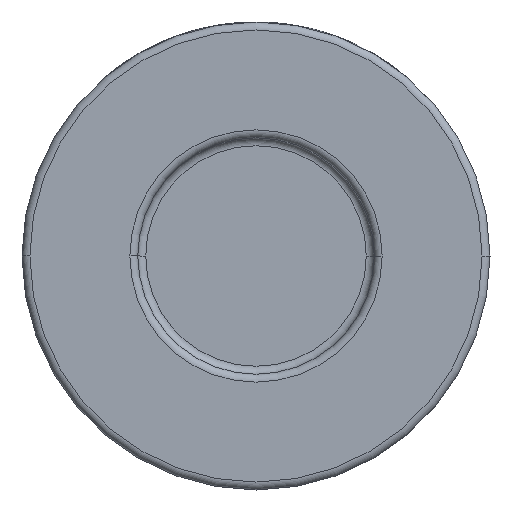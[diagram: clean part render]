
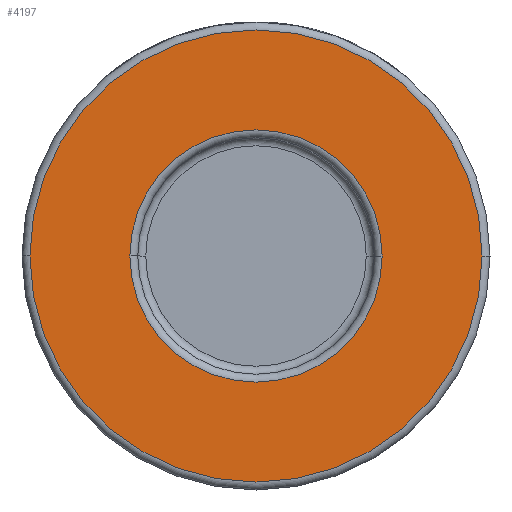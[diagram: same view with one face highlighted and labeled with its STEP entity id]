
A CAD part, front view. The second image highlights one B-rep face of the part: STEP entity #4197.
In plain terms, the highlighted planar face has unit normal (0, -1, 0).
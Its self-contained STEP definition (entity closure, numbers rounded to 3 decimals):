
#182 = VERTEX_POINT ( 'NONE', #1831 ) ;
#234 = CARTESIAN_POINT ( 'NONE',  ( -15.9, -27., 0. ) ) ;
#301 = ORIENTED_EDGE ( 'NONE', *, *, #2029, .T. ) ;
#562 = VERTEX_POINT ( 'NONE', #2445 ) ;
#639 = CARTESIAN_POINT ( 'NONE',  ( 0., -27., 0. ) ) ;
#678 = AXIS2_PLACEMENT_3D ( 'NONE', #1146, #2600, #3672 ) ;
#694 = CARTESIAN_POINT ( 'NONE',  ( -28.5, -27., 0. ) ) ;
#1044 = DIRECTION ( 'NONE',  ( 1., 0., 0. ) ) ;
#1100 = AXIS2_PLACEMENT_3D ( 'NONE', #1803, #3167, #4583 ) ;
#1146 = CARTESIAN_POINT ( 'NONE',  ( 0., -27., 0. ) ) ;
#1250 = AXIS2_PLACEMENT_3D ( 'NONE', #639, #4239, #1044 ) ;
#1450 = FACE_OUTER_BOUND ( 'NONE', #2570, .T. ) ;
#1803 = CARTESIAN_POINT ( 'NONE',  ( 29.5, -27., 0. ) ) ;
#1807 = AXIS2_PLACEMENT_3D ( 'NONE', #2604, #2978, #3628 ) ;
#1831 = CARTESIAN_POINT ( 'NONE',  ( 15.9, -27., 0. ) ) ;
#2029 = EDGE_CURVE ( 'NONE', #182, #4325, #2721, .T. ) ;
#2051 = EDGE_CURVE ( 'NONE', #4325, #182, #2117, .T. ) ;
#2117 = CIRCLE ( 'NONE', #678, 15.9 ) ;
#2222 = CARTESIAN_POINT ( 'NONE',  ( 0., -27., 0. ) ) ;
#2392 = VERTEX_POINT ( 'NONE', #694 ) ;
#2445 = CARTESIAN_POINT ( 'NONE',  ( 28.5, -27., 0. ) ) ;
#2531 = ORIENTED_EDGE ( 'NONE', *, *, #4501, .T. ) ;
#2537 = PLANE ( 'NONE',  #1100 ) ;
#2570 = EDGE_LOOP ( 'NONE', ( #2531, #3355 ) ) ;
#2600 = DIRECTION ( 'NONE',  ( 0., 1., 0. ) ) ;
#2604 = CARTESIAN_POINT ( 'NONE',  ( 0., -27., 0. ) ) ;
#2690 = EDGE_CURVE ( 'NONE', #2392, #562, #3291, .T. ) ;
#2721 = CIRCLE ( 'NONE', #4130, 15.9 ) ;
#2835 = ORIENTED_EDGE ( 'NONE', *, *, #2051, .T. ) ;
#2978 = DIRECTION ( 'NONE',  ( 0., -1., 0. ) ) ;
#3167 = DIRECTION ( 'NONE',  ( 0., -1., 0. ) ) ;
#3291 = CIRCLE ( 'NONE', #1250, 28.5 ) ;
#3310 = CIRCLE ( 'NONE', #1807, 28.5 ) ;
#3355 = ORIENTED_EDGE ( 'NONE', *, *, #2690, .T. ) ;
#3423 = EDGE_LOOP ( 'NONE', ( #301, #2835 ) ) ;
#3516 = FACE_BOUND ( 'NONE', #3423, .T. ) ;
#3628 = DIRECTION ( 'NONE',  ( 1., 0., 0. ) ) ;
#3646 = DIRECTION ( 'NONE',  ( 1., 0., 0. ) ) ;
#3672 = DIRECTION ( 'NONE',  ( 1., 0., 0. ) ) ;
#4021 = DIRECTION ( 'NONE',  ( 0., 1., 0. ) ) ;
#4130 = AXIS2_PLACEMENT_3D ( 'NONE', #2222, #4021, #3646 ) ;
#4197 = ADVANCED_FACE ( 'NONE', ( #3516, #1450 ), #2537, .T. ) ;
#4239 = DIRECTION ( 'NONE',  ( 0., -1., 0. ) ) ;
#4325 = VERTEX_POINT ( 'NONE', #234 ) ;
#4501 = EDGE_CURVE ( 'NONE', #562, #2392, #3310, .T. ) ;
#4583 = DIRECTION ( 'NONE',  ( 1., 0., 0. ) ) ;
